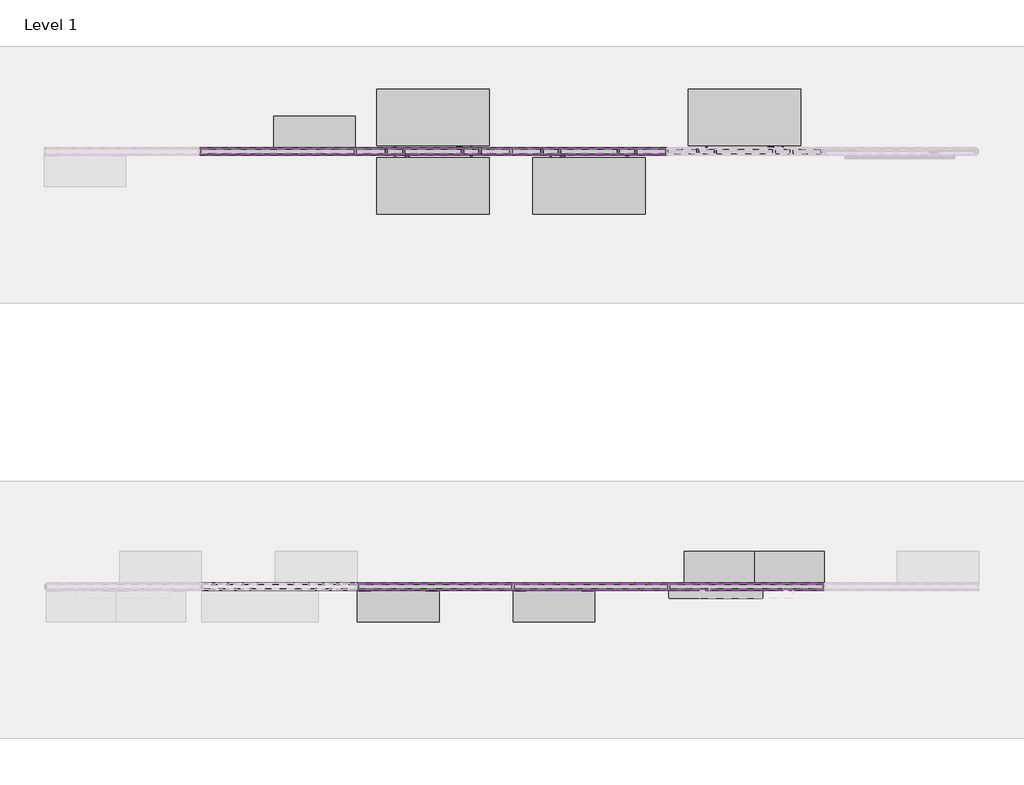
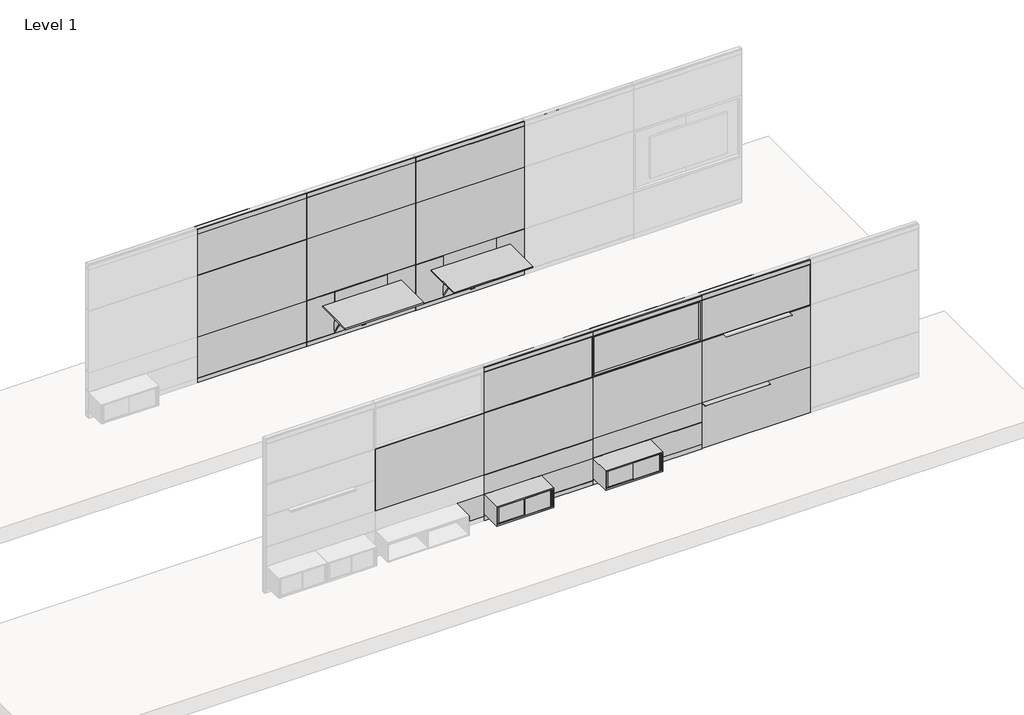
# One storey, part 6 of 13: 102 proxies, 10 furniture elements.
"""IFC4 building model written with IfcOpenShell, lengths in millimetres."""

from ifc_helpers import new_model, si_unit, origin, place, context, project, spatial, transform, mapped, element, save
from components import fascia_teknion_ceiling_and_base_ffb1_57c76872, fascia_teknion_ceiling_and_base_ffb1_68f9ae85, frame_teknion_horizontal_rail_fkk_aab90c89, frame_teknion_landscape_vertical_post_b621eeab, glass_fascia_e9c48712, glass_fascia_e3078b55, level_i_42ece40d, level_i_b1a3b441, level_i_4afae145, level_i_bottom_1aac6edf, level_i_bottom_7d6acad2, level_i_top_09e36e50, level_i_top_83d707e0, level_ii_231fb084, level_ii_554533ae, level_iii_45eca7cc, level_iii_4951afc5, whiteboard_fe8ffc8d, working_wall_monolithic_level_i_3b1bc392, furniture_ecb3b3c7, aluminum_shelf_9e608764, furniture_9e8aaa73, furniture_d19da1b5

model = new_model("IFC4")

# Units and contexts
model_context = context("Model", 3, world=origin())
ifc_project = project(units=[si_unit("LENGTHUNIT", "METRE", prefix="MILLI")], contexts=[model_context])

# Site, building, storey
site = spatial("IfcSite", under=ifc_project)
building = spatial("IfcBuilding", under=site)
storey = spatial("IfcBuildingStorey", under=building, Name="Level 1", Elevation=0.0)

# Proxies
placement = place(None, origin())
fascia_teknion_ceiling_and_base_ffb1_shape = fascia_teknion_ceiling_and_base_ffb1_57c76872(model_context)
element("IfcBuildingElementProxy", 1, Name="Fascia-Teknion-Ceiling_and_Base : FFB1", ObjectType="Fascia-Teknion-Ceiling_and_Base : FFB1", at=placement, inside=storey, context=model_context, shape_type="MappedRepresentation", body=[
    mapped(fascia_teknion_ceiling_and_base_ffb1_shape, transform((-36700.5069272, 16151.7189796, 15.875), x_axis=(1.0, 0.0, 0.0), y_axis=(0.0, 1.0, 0.0), z_axis=(0.0, 0.0, 1.0))),
])
element("IfcBuildingElementProxy", 2, Name="Fascia-Teknion-Ceiling_and_Base : FFB1", ObjectType="Fascia-Teknion-Ceiling_and_Base : FFB1", at=placement, inside=storey, context=model_context, shape_type="MappedRepresentation", body=[
    mapped(fascia_teknion_ceiling_and_base_ffb1_shape, transform((-34668.5069272, 16151.7189796, 15.875), x_axis=(1.0, 0.0, 0.0), y_axis=(0.0, 1.0, 0.0), z_axis=(0.0, 0.0, 1.0))),
])
element("IfcBuildingElementProxy", 3, Name="Fascia-Teknion-Ceiling_and_Base : FFB1", ObjectType="Fascia-Teknion-Ceiling_and_Base : FFB1", at=placement, inside=storey, context=model_context, shape_type="MappedRepresentation", body=[
    mapped(fascia_teknion_ceiling_and_base_ffb1_shape, transform((-32636.5069272, 16151.7189796, 15.875), x_axis=(1.0, 0.0, 0.0), y_axis=(0.0, 1.0, 0.0), z_axis=(0.0, 0.0, 1.0))),
])
element("IfcBuildingElementProxy", 4, Name="Fascia-Teknion-Ceiling_and_Base : FFB1", ObjectType="Fascia-Teknion-Ceiling_and_Base : FFB1", at=placement, inside=storey, context=model_context, shape_type="MappedRepresentation", body=[
    mapped(fascia_teknion_ceiling_and_base_ffb1_shape, transform((-38757.9069272, 21833.4449796, 15.875), x_axis=(1.0, 0.0, 0.0), y_axis=(0.0, 1.0, 0.0), z_axis=(0.0, 0.0, 1.0))),
])
element("IfcBuildingElementProxy", 5, Name="Fascia-Teknion-Ceiling_and_Base : FFB1", ObjectType="Fascia-Teknion-Ceiling_and_Base : FFB1", at=placement, inside=storey, context=model_context, shape_type="MappedRepresentation", body=[
    mapped(fascia_teknion_ceiling_and_base_ffb1_shape, transform((-34693.9069272, 21833.4449796, 15.875), x_axis=(1.0, 0.0, 0.0), y_axis=(0.0, 1.0, 0.0), z_axis=(0.0, 0.0, 1.0))),
])
fascia_teknion_ceiling_and_base_ffb1_2_shape = fascia_teknion_ceiling_and_base_ffb1_68f9ae85(model_context)
element("IfcBuildingElementProxy", 6, Name="Fascia-Teknion-Ceiling_and_Base : FFB1", ObjectType="Fascia-Teknion-Ceiling_and_Base : FFB1", at=placement, inside=storey, context=model_context, shape_type="MappedRepresentation", body=[
    mapped(fascia_teknion_ceiling_and_base_ffb1_2_shape, transform((-36700.5069272, 16089.7429796, 15.875), x_axis=(1.0, 0.0, 0.0), y_axis=(0.0, 1.0, 0.0), z_axis=(0.0, 0.0, 1.0))),
])
element("IfcBuildingElementProxy", 7, Name="Fascia-Teknion-Ceiling_and_Base : FFB1", ObjectType="Fascia-Teknion-Ceiling_and_Base : FFB1", at=placement, inside=storey, context=model_context, shape_type="MappedRepresentation", body=[
    mapped(fascia_teknion_ceiling_and_base_ffb1_2_shape, transform((-34668.5069272, 16089.7429796, 15.875), x_axis=(1.0, 0.0, 0.0), y_axis=(0.0, 1.0, 0.0), z_axis=(0.0, 0.0, 1.0))),
])
element("IfcBuildingElementProxy", 8, Name="Fascia-Teknion-Ceiling_and_Base : FFB1", ObjectType="Fascia-Teknion-Ceiling_and_Base : FFB1", at=placement, inside=storey, context=model_context, shape_type="MappedRepresentation", body=[
    mapped(fascia_teknion_ceiling_and_base_ffb1_2_shape, transform((-36725.9069272, 21771.4689796, 15.875), x_axis=(1.0, 0.0, 0.0), y_axis=(0.0, 1.0, 0.0), z_axis=(0.0, 0.0, 1.0))),
])
element("IfcBuildingElementProxy", 9, Name="Fascia-Teknion-Ceiling_and_Base : FFB1", ObjectType="Fascia-Teknion-Ceiling_and_Base : FFB1", at=placement, inside=storey, context=model_context, shape_type="MappedRepresentation", body=[
    mapped(fascia_teknion_ceiling_and_base_ffb1_2_shape, transform((-34693.9069272, 21771.4689796, 15.875), x_axis=(1.0, 0.0, 0.0), y_axis=(0.0, 1.0, 0.0), z_axis=(0.0, 0.0, 1.0))),
])
element("IfcBuildingElementProxy", 10, Name="Fascia-Teknion-Ceiling_and_Base : FFB1", ObjectType="Fascia-Teknion-Ceiling_and_Base : FFB1", at=placement, inside=storey, context=model_context, shape_type="MappedRepresentation", body=[
    mapped(fascia_teknion_ceiling_and_base_ffb1_2_shape, transform((-38757.9069272, 21771.4689796, 15.875), x_axis=(1.0, 0.0, 0.0), y_axis=(0.0, 1.0, 0.0), z_axis=(0.0, 0.0, 1.0))),
])
element("IfcBuildingElementProxy", 11, Name="Fascia-Teknion-Ceiling_and_Base : FFB1", ObjectType="Fascia-Teknion-Ceiling_and_Base : FFB1", at=placement, inside=storey, context=model_context, shape_type="MappedRepresentation", body=[
    mapped(fascia_teknion_ceiling_and_base_ffb1_2_shape, transform((-36725.9069272, 21833.4449796, 15.875), x_axis=(-1.0, 0.0, 0.0), y_axis=(0.0, -1.0, 0.0), z_axis=(0.0, 0.0, 1.0))),
])
element("IfcBuildingElementProxy", 12, Name="Fascia-Teknion-Ceiling_and_Base : FFC", ObjectType="Fascia-Teknion-Ceiling_and_Base : FFC", at=placement, inside=storey, context=model_context, shape_type="MappedRepresentation", body=[
    mapped(fascia_teknion_ceiling_and_base_ffb1_shape, transform((-38757.9069272, 21833.4449796, 2950.845), x_axis=(1.0, 0.0, 0.0), y_axis=(0.0, 1.0, 0.0), z_axis=(0.0, 0.0, 1.0))),
])
element("IfcBuildingElementProxy", 13, Name="Fascia-Teknion-Ceiling_and_Base : FFC", ObjectType="Fascia-Teknion-Ceiling_and_Base : FFC", at=placement, inside=storey, context=model_context, shape_type="MappedRepresentation", body=[
    mapped(fascia_teknion_ceiling_and_base_ffb1_shape, transform((-36725.9069272, 21833.4449796, 2950.845), x_axis=(1.0, 0.0, 0.0), y_axis=(0.0, 1.0, 0.0), z_axis=(0.0, 0.0, 1.0))),
])
element("IfcBuildingElementProxy", 14, Name="Fascia-Teknion-Ceiling_and_Base : FFC", ObjectType="Fascia-Teknion-Ceiling_and_Base : FFC", at=placement, inside=storey, context=model_context, shape_type="MappedRepresentation", body=[
    mapped(fascia_teknion_ceiling_and_base_ffb1_shape, transform((-34693.9069272, 21833.4449796, 2950.845), x_axis=(1.0, 0.0, 0.0), y_axis=(0.0, 1.0, 0.0), z_axis=(0.0, 0.0, 1.0))),
])
element("IfcBuildingElementProxy", 15, Name="Fascia-Teknion-Ceiling_and_Base : FFC", ObjectType="Fascia-Teknion-Ceiling_and_Base : FFC", at=placement, inside=storey, context=model_context, shape_type="MappedRepresentation", body=[
    mapped(fascia_teknion_ceiling_and_base_ffb1_shape, transform((-36700.5069272, 16151.7189796, 2950.845), x_axis=(1.0, 0.0, 0.0), y_axis=(0.0, 1.0, 0.0), z_axis=(0.0, 0.0, 1.0))),
])
element("IfcBuildingElementProxy", 16, Name="Fascia-Teknion-Ceiling_and_Base : FFC", ObjectType="Fascia-Teknion-Ceiling_and_Base : FFC", at=placement, inside=storey, context=model_context, shape_type="MappedRepresentation", body=[
    mapped(fascia_teknion_ceiling_and_base_ffb1_shape, transform((-34668.5069272, 16151.7189796, 2950.845), x_axis=(1.0, 0.0, 0.0), y_axis=(0.0, 1.0, 0.0), z_axis=(0.0, 0.0, 1.0))),
])
element("IfcBuildingElementProxy", 17, Name="Fascia-Teknion-Ceiling_and_Base : FFC", ObjectType="Fascia-Teknion-Ceiling_and_Base : FFC", at=placement, inside=storey, context=model_context, shape_type="MappedRepresentation", body=[
    mapped(fascia_teknion_ceiling_and_base_ffb1_shape, transform((-32636.5069272, 16151.7189796, 2950.845), x_axis=(1.0, 0.0, 0.0), y_axis=(0.0, 1.0, 0.0), z_axis=(0.0, 0.0, 1.0))),
])
element("IfcBuildingElementProxy", 18, Name="Fascia-Teknion-Ceiling_and_Base : FFC", ObjectType="Fascia-Teknion-Ceiling_and_Base : FFC", at=placement, inside=storey, context=model_context, shape_type="MappedRepresentation", body=[
    mapped(fascia_teknion_ceiling_and_base_ffb1_2_shape, transform((-38757.9069272, 21771.4689796, 2950.845), x_axis=(1.0, 0.0, 0.0), y_axis=(0.0, 1.0, 0.0), z_axis=(0.0, 0.0, 1.0))),
])
element("IfcBuildingElementProxy", 19, Name="Fascia-Teknion-Ceiling_and_Base : FFC", ObjectType="Fascia-Teknion-Ceiling_and_Base : FFC", at=placement, inside=storey, context=model_context, shape_type="MappedRepresentation", body=[
    mapped(fascia_teknion_ceiling_and_base_ffb1_2_shape, transform((-36725.9069272, 21771.4689796, 2950.845), x_axis=(1.0, 0.0, 0.0), y_axis=(0.0, 1.0, 0.0), z_axis=(0.0, 0.0, 1.0))),
])
element("IfcBuildingElementProxy", 20, Name="Fascia-Teknion-Ceiling_and_Base : FFC", ObjectType="Fascia-Teknion-Ceiling_and_Base : FFC", at=placement, inside=storey, context=model_context, shape_type="MappedRepresentation", body=[
    mapped(fascia_teknion_ceiling_and_base_ffb1_2_shape, transform((-34693.9069272, 21771.4689796, 2950.845), x_axis=(1.0, 0.0, 0.0), y_axis=(0.0, 1.0, 0.0), z_axis=(0.0, 0.0, 1.0))),
])
element("IfcBuildingElementProxy", 21, Name="Fascia-Teknion-Ceiling_and_Base : FFC", ObjectType="Fascia-Teknion-Ceiling_and_Base : FFC", at=placement, inside=storey, context=model_context, shape_type="MappedRepresentation", body=[
    mapped(fascia_teknion_ceiling_and_base_ffb1_2_shape, transform((-36700.5069272, 16089.7429796, 2950.845), x_axis=(1.0, 0.0, 0.0), y_axis=(0.0, 1.0, 0.0), z_axis=(0.0, 0.0, 1.0))),
])
element("IfcBuildingElementProxy", 22, Name="Fascia-Teknion-Ceiling_and_Base : FFC", ObjectType="Fascia-Teknion-Ceiling_and_Base : FFC", at=placement, inside=storey, context=model_context, shape_type="MappedRepresentation", body=[
    mapped(fascia_teknion_ceiling_and_base_ffb1_2_shape, transform((-34668.5069272, 16089.7429796, 2950.845), x_axis=(1.0, 0.0, 0.0), y_axis=(0.0, 1.0, 0.0), z_axis=(0.0, 0.0, 1.0))),
])
element("IfcBuildingElementProxy", 23, Name="Fascia-Teknion-Ceiling_and_Base : FFC", ObjectType="Fascia-Teknion-Ceiling_and_Base : FFC", at=placement, inside=storey, context=model_context, shape_type="MappedRepresentation", body=[
    mapped(fascia_teknion_ceiling_and_base_ffb1_2_shape, transform((-32636.5069272, 16089.7429796, 2950.845), x_axis=(1.0, 0.0, 0.0), y_axis=(0.0, 1.0, 0.0), z_axis=(0.0, 0.0, 1.0))),
])
frame_teknion_horizontal_rail_fkk_shape = frame_teknion_horizontal_rail_fkk_aab90c89(model_context)
element("IfcBuildingElementProxy", 24, Name="Frame-Teknion-Horizontal_Rail : FKK", ObjectType="Frame-Teknion-Horizontal_Rail : FKK", at=placement, inside=storey, context=model_context, shape_type="MappedRepresentation", body=[
    mapped(frame_teknion_horizontal_rail_fkk_shape, transform((-38757.9069272, 21802.4569796, 100.4514438), x_axis=(1.0, 0.0, 0.0), y_axis=(0.0, 1.0, 0.0), z_axis=(0.0, 0.0, 1.0))),
])
element("IfcBuildingElementProxy", 25, Name="Frame-Teknion-Horizontal_Rail : FKK", ObjectType="Frame-Teknion-Horizontal_Rail : FKK", at=placement, inside=storey, context=model_context, shape_type="MappedRepresentation", body=[
    mapped(frame_teknion_horizontal_rail_fkk_shape, transform((-38757.9069272, 21802.4569796, 2947.5374437), x_axis=(1.0, 0.0, 0.0), y_axis=(0.0, 1.0, 0.0), z_axis=(0.0, 0.0, 1.0))),
])
element("IfcBuildingElementProxy", 26, Name="Frame-Teknion-Horizontal_Rail : FKK", ObjectType="Frame-Teknion-Horizontal_Rail : FKK", at=placement, inside=storey, context=model_context, shape_type="MappedRepresentation", body=[
    mapped(frame_teknion_horizontal_rail_fkk_shape, transform((-36725.9069272, 21802.4569796, 100.4514438), x_axis=(1.0, 0.0, 0.0), y_axis=(0.0, 1.0, 0.0), z_axis=(0.0, 0.0, 1.0))),
])
element("IfcBuildingElementProxy", 27, Name="Frame-Teknion-Horizontal_Rail : FKK", ObjectType="Frame-Teknion-Horizontal_Rail : FKK", at=placement, inside=storey, context=model_context, shape_type="MappedRepresentation", body=[
    mapped(frame_teknion_horizontal_rail_fkk_shape, transform((-36725.9069272, 21802.4569796, 2947.5374437), x_axis=(1.0, 0.0, 0.0), y_axis=(0.0, 1.0, 0.0), z_axis=(0.0, 0.0, 1.0))),
])
element("IfcBuildingElementProxy", 28, Name="Frame-Teknion-Horizontal_Rail : FKK", ObjectType="Frame-Teknion-Horizontal_Rail : FKK", at=placement, inside=storey, context=model_context, shape_type="MappedRepresentation", body=[
    mapped(frame_teknion_horizontal_rail_fkk_shape, transform((-34693.9069272, 21802.4569796, 100.4514438), x_axis=(1.0, 0.0, 0.0), y_axis=(0.0, 1.0, 0.0), z_axis=(0.0, 0.0, 1.0))),
])
element("IfcBuildingElementProxy", 29, Name="Frame-Teknion-Horizontal_Rail : FKK", ObjectType="Frame-Teknion-Horizontal_Rail : FKK", at=placement, inside=storey, context=model_context, shape_type="MappedRepresentation", body=[
    mapped(frame_teknion_horizontal_rail_fkk_shape, transform((-34693.9069272, 21802.4569796, 2947.5374437), x_axis=(1.0, 0.0, 0.0), y_axis=(0.0, 1.0, 0.0), z_axis=(0.0, 0.0, 1.0))),
])
element("IfcBuildingElementProxy", 30, Name="Frame-Teknion-Horizontal_Rail : FKK", ObjectType="Frame-Teknion-Horizontal_Rail : FKK", at=placement, inside=storey, context=model_context, shape_type="MappedRepresentation", body=[
    mapped(frame_teknion_horizontal_rail_fkk_shape, transform((-36700.5069272, 16120.7309796, 100.4514438), x_axis=(1.0, 0.0, 0.0), y_axis=(0.0, 1.0, 0.0), z_axis=(0.0, 0.0, 1.0))),
])
element("IfcBuildingElementProxy", 31, Name="Frame-Teknion-Horizontal_Rail : FKK", ObjectType="Frame-Teknion-Horizontal_Rail : FKK", at=placement, inside=storey, context=model_context, shape_type="MappedRepresentation", body=[
    mapped(frame_teknion_horizontal_rail_fkk_shape, transform((-36700.5069272, 16120.7309796, 2947.5374437), x_axis=(1.0, 0.0, 0.0), y_axis=(0.0, 1.0, 0.0), z_axis=(0.0, 0.0, 1.0))),
])
element("IfcBuildingElementProxy", 32, Name="Frame-Teknion-Horizontal_Rail : FKK", ObjectType="Frame-Teknion-Horizontal_Rail : FKK", at=placement, inside=storey, context=model_context, shape_type="MappedRepresentation", body=[
    mapped(frame_teknion_horizontal_rail_fkk_shape, transform((-34668.5069272, 16120.7309796, 100.4514438), x_axis=(1.0, 0.0, 0.0), y_axis=(0.0, 1.0, 0.0), z_axis=(0.0, 0.0, 1.0))),
])
element("IfcBuildingElementProxy", 33, Name="Frame-Teknion-Horizontal_Rail : FKK", ObjectType="Frame-Teknion-Horizontal_Rail : FKK", at=placement, inside=storey, context=model_context, shape_type="MappedRepresentation", body=[
    mapped(frame_teknion_horizontal_rail_fkk_shape, transform((-34668.5069272, 16120.7309796, 2947.5374437), x_axis=(1.0, 0.0, 0.0), y_axis=(0.0, 1.0, 0.0), z_axis=(0.0, 0.0, 1.0))),
])
element("IfcBuildingElementProxy", 34, Name="Frame-Teknion-Horizontal_Rail : FKK", ObjectType="Frame-Teknion-Horizontal_Rail : FKK", at=placement, inside=storey, context=model_context, shape_type="MappedRepresentation", body=[
    mapped(frame_teknion_horizontal_rail_fkk_shape, transform((-32636.5069272, 16120.7309796, 100.4514438), x_axis=(1.0, 0.0, 0.0), y_axis=(0.0, 1.0, 0.0), z_axis=(0.0, 0.0, 1.0))),
])
element("IfcBuildingElementProxy", 35, Name="Frame-Teknion-Horizontal_Rail : FKK", ObjectType="Frame-Teknion-Horizontal_Rail : FKK", at=placement, inside=storey, context=model_context, shape_type="MappedRepresentation", body=[
    mapped(frame_teknion_horizontal_rail_fkk_shape, transform((-32636.5069272, 16120.7309796, 2947.5374437), x_axis=(1.0, 0.0, 0.0), y_axis=(0.0, 1.0, 0.0), z_axis=(0.0, 0.0, 1.0))),
])
element("IfcBuildingElementProxy", 36, Name="Frame-Teknion-Landscape_Horizontal_Rail : FLKH", ObjectType="Frame-Teknion-Landscape_Horizontal_Rail : FLKH", at=placement, inside=storey, context=model_context, shape_type="MappedRepresentation", body=[
    mapped(frame_teknion_horizontal_rail_fkk_shape, transform((-38757.9069272, 21802.4569796, 917.575), x_axis=(1.0, 0.0, 0.0), y_axis=(0.0, 1.0, 0.0), z_axis=(0.0, 0.0, 1.0))),
])
element("IfcBuildingElementProxy", 37, Name="Frame-Teknion-Landscape_Horizontal_Rail : FLKH", ObjectType="Frame-Teknion-Landscape_Horizontal_Rail : FLKH", at=placement, inside=storey, context=model_context, shape_type="MappedRepresentation", body=[
    mapped(frame_teknion_horizontal_rail_fkk_shape, transform((-38757.9069272, 21802.4569796, 2136.775), x_axis=(1.0, 0.0, 0.0), y_axis=(0.0, 1.0, 0.0), z_axis=(0.0, 0.0, 1.0))),
])
element("IfcBuildingElementProxy", 38, Name="Frame-Teknion-Landscape_Horizontal_Rail : FLKH", ObjectType="Frame-Teknion-Landscape_Horizontal_Rail : FLKH", at=placement, inside=storey, context=model_context, shape_type="MappedRepresentation", body=[
    mapped(frame_teknion_horizontal_rail_fkk_shape, transform((-36725.9069272, 21802.4569796, 917.575), x_axis=(1.0, 0.0, 0.0), y_axis=(0.0, 1.0, 0.0), z_axis=(0.0, 0.0, 1.0))),
])
element("IfcBuildingElementProxy", 39, Name="Frame-Teknion-Landscape_Horizontal_Rail : FLKH", ObjectType="Frame-Teknion-Landscape_Horizontal_Rail : FLKH", at=placement, inside=storey, context=model_context, shape_type="MappedRepresentation", body=[
    mapped(frame_teknion_horizontal_rail_fkk_shape, transform((-36725.9069272, 21802.4569796, 2136.775), x_axis=(1.0, 0.0, 0.0), y_axis=(0.0, 1.0, 0.0), z_axis=(0.0, 0.0, 1.0))),
])
element("IfcBuildingElementProxy", 40, Name="Frame-Teknion-Landscape_Horizontal_Rail : FLKH", ObjectType="Frame-Teknion-Landscape_Horizontal_Rail : FLKH", at=placement, inside=storey, context=model_context, shape_type="MappedRepresentation", body=[
    mapped(frame_teknion_horizontal_rail_fkk_shape, transform((-34693.9069272, 21802.4569796, 917.575), x_axis=(1.0, 0.0, 0.0), y_axis=(0.0, 1.0, 0.0), z_axis=(0.0, 0.0, 1.0))),
])
element("IfcBuildingElementProxy", 41, Name="Frame-Teknion-Landscape_Horizontal_Rail : FLKH", ObjectType="Frame-Teknion-Landscape_Horizontal_Rail : FLKH", at=placement, inside=storey, context=model_context, shape_type="MappedRepresentation", body=[
    mapped(frame_teknion_horizontal_rail_fkk_shape, transform((-34693.9069272, 21802.4569796, 2136.775), x_axis=(1.0, 0.0, 0.0), y_axis=(0.0, 1.0, 0.0), z_axis=(0.0, 0.0, 1.0))),
])
element("IfcBuildingElementProxy", 42, Name="Frame-Teknion-Landscape_Horizontal_Rail : FLKH", ObjectType="Frame-Teknion-Landscape_Horizontal_Rail : FLKH", at=placement, inside=storey, context=model_context, shape_type="MappedRepresentation", body=[
    mapped(frame_teknion_horizontal_rail_fkk_shape, transform((-32661.9069272, 21802.4569796, 917.575), x_axis=(1.0, 0.0, 0.0), y_axis=(0.0, 1.0, 0.0), z_axis=(0.0, 0.0, 1.0))),
])
element("IfcBuildingElementProxy", 43, Name="Frame-Teknion-Landscape_Horizontal_Rail : FLKH", ObjectType="Frame-Teknion-Landscape_Horizontal_Rail : FLKH", at=placement, inside=storey, context=model_context, shape_type="MappedRepresentation", body=[
    mapped(frame_teknion_horizontal_rail_fkk_shape, transform((-38757.9069272, 21802.4569796, 536.575), x_axis=(1.0, 0.0, 0.0), y_axis=(0.0, 1.0, 0.0), z_axis=(0.0, 0.0, 1.0))),
])
element("IfcBuildingElementProxy", 44, Name="Frame-Teknion-Landscape_Horizontal_Rail : FLKH", ObjectType="Frame-Teknion-Landscape_Horizontal_Rail : FLKH", at=placement, inside=storey, context=model_context, shape_type="MappedRepresentation", body=[
    mapped(frame_teknion_horizontal_rail_fkk_shape, transform((-36700.5069272, 16120.7309796, 917.575), x_axis=(1.0, 0.0, 0.0), y_axis=(0.0, 1.0, 0.0), z_axis=(0.0, 0.0, 1.0))),
])
element("IfcBuildingElementProxy", 45, Name="Frame-Teknion-Landscape_Horizontal_Rail : FLKH", ObjectType="Frame-Teknion-Landscape_Horizontal_Rail : FLKH", at=placement, inside=storey, context=model_context, shape_type="MappedRepresentation", body=[
    mapped(frame_teknion_horizontal_rail_fkk_shape, transform((-36700.5069272, 16120.7309796, 2136.775), x_axis=(1.0, 0.0, 0.0), y_axis=(0.0, 1.0, 0.0), z_axis=(0.0, 0.0, 1.0))),
])
element("IfcBuildingElementProxy", 46, Name="Frame-Teknion-Landscape_Horizontal_Rail : FLKH", ObjectType="Frame-Teknion-Landscape_Horizontal_Rail : FLKH", at=placement, inside=storey, context=model_context, shape_type="MappedRepresentation", body=[
    mapped(frame_teknion_horizontal_rail_fkk_shape, transform((-34668.5069272, 16120.7309796, 917.575), x_axis=(1.0, 0.0, 0.0), y_axis=(0.0, 1.0, 0.0), z_axis=(0.0, 0.0, 1.0))),
])
element("IfcBuildingElementProxy", 47, Name="Frame-Teknion-Landscape_Horizontal_Rail : FLKH", ObjectType="Frame-Teknion-Landscape_Horizontal_Rail : FLKH", at=placement, inside=storey, context=model_context, shape_type="MappedRepresentation", body=[
    mapped(frame_teknion_horizontal_rail_fkk_shape, transform((-34668.5069272, 16120.7309796, 2136.775), x_axis=(1.0, 0.0, 0.0), y_axis=(0.0, 1.0, 0.0), z_axis=(0.0, 0.0, 1.0))),
])
element("IfcBuildingElementProxy", 48, Name="Frame-Teknion-Landscape_Horizontal_Rail : FLKH", ObjectType="Frame-Teknion-Landscape_Horizontal_Rail : FLKH", at=placement, inside=storey, context=model_context, shape_type="MappedRepresentation", body=[
    mapped(frame_teknion_horizontal_rail_fkk_shape, transform((-32636.5069272, 16120.7309796, 917.575), x_axis=(1.0, 0.0, 0.0), y_axis=(0.0, 1.0, 0.0), z_axis=(0.0, 0.0, 1.0))),
])
element("IfcBuildingElementProxy", 49, Name="Frame-Teknion-Landscape_Horizontal_Rail : FLKH", ObjectType="Frame-Teknion-Landscape_Horizontal_Rail : FLKH", at=placement, inside=storey, context=model_context, shape_type="MappedRepresentation", body=[
    mapped(frame_teknion_horizontal_rail_fkk_shape, transform((-32636.5069272, 16120.7309796, 2136.775), x_axis=(1.0, 0.0, 0.0), y_axis=(0.0, 1.0, 0.0), z_axis=(0.0, 0.0, 1.0))),
])
element("IfcBuildingElementProxy", 50, Name="Frame-Teknion-Landscape_Horizontal_Rail : FLKH", ObjectType="Frame-Teknion-Landscape_Horizontal_Rail : FLKH", at=placement, inside=storey, context=model_context, shape_type="MappedRepresentation", body=[
    mapped(frame_teknion_horizontal_rail_fkk_shape, transform((-36700.5069272, 16120.7309796, 536.575), x_axis=(1.0, 0.0, 0.0), y_axis=(0.0, 1.0, 0.0), z_axis=(0.0, 0.0, 1.0))),
])
element("IfcBuildingElementProxy", 51, Name="Frame-Teknion-Landscape_Horizontal_Rail : FLKH", ObjectType="Frame-Teknion-Landscape_Horizontal_Rail : FLKH", at=placement, inside=storey, context=model_context, shape_type="MappedRepresentation", body=[
    mapped(frame_teknion_horizontal_rail_fkk_shape, transform((-34668.5069272, 16120.7309796, 536.575), x_axis=(1.0, 0.0, 0.0), y_axis=(0.0, 1.0, 0.0), z_axis=(0.0, 0.0, 1.0))),
])
element("IfcBuildingElementProxy", 52, Name="Frame-Teknion-Landscape_Horizontal_Rail : FLKH", ObjectType="Frame-Teknion-Landscape_Horizontal_Rail : FLKH", at=placement, inside=storey, context=model_context, shape_type="MappedRepresentation", body=[
    mapped(frame_teknion_horizontal_rail_fkk_shape, transform((-32636.5069272, 16120.7309796, 536.575), x_axis=(1.0, 0.0, 0.0), y_axis=(0.0, 1.0, 0.0), z_axis=(0.0, 0.0, 1.0))),
])
frame_teknion_landscape_vertical_post_shape = frame_teknion_landscape_vertical_post_b621eeab(model_context)
element("IfcBuildingElementProxy", 53, Name="Frame-Teknion-Landscape_Vertical_Post : FLKV", ObjectType="Frame-Teknion-Landscape_Vertical_Post : FLKV", at=placement, inside=storey, context=model_context, shape_type="MappedRepresentation", body=[
    mapped(frame_teknion_landscape_vertical_post_shape, transform((-37337.0817272, 21802.4569796, 15.875), x_axis=(-1.0000000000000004, 0.0, 0.0), y_axis=(0.0, -1.0000000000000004, 0.0), z_axis=(0.0, 0.0, 1.0))),
])
element("IfcBuildingElementProxy", 54, Name="Frame-Teknion-Landscape_Vertical_Post : FLKV", ObjectType="Frame-Teknion-Landscape_Vertical_Post : FLKV", at=placement, inside=storey, context=model_context, shape_type="MappedRepresentation", body=[
    mapped(frame_teknion_landscape_vertical_post_shape, transform((-37108.4817272, 21802.4569796, 15.875), x_axis=(-1.0000000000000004, 0.0, 0.0), y_axis=(0.0, -1.0000000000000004, 0.0), z_axis=(0.0, 0.0, 1.0))),
])
element("IfcBuildingElementProxy", 55, Name="Frame-Teknion-Landscape_Vertical_Post : FLKV", ObjectType="Frame-Teknion-Landscape_Vertical_Post : FLKV", at=placement, inside=storey, context=model_context, shape_type="MappedRepresentation", body=[
    mapped(frame_teknion_landscape_vertical_post_shape, transform((-36343.3321272, 21802.4569796, 15.875), x_axis=(-1.0000000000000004, 0.0, 0.0), y_axis=(0.0, -1.0000000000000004, 0.0), z_axis=(0.0, 0.0, 1.0))),
])
element("IfcBuildingElementProxy", 56, Name="Frame-Teknion-Landscape_Vertical_Post : FLKV", ObjectType="Frame-Teknion-Landscape_Vertical_Post : FLKV", at=placement, inside=storey, context=model_context, shape_type="MappedRepresentation", body=[
    mapped(frame_teknion_landscape_vertical_post_shape, transform((-36114.7321272, 21802.4569796, 15.875), x_axis=(-1.0000000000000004, 0.0, 0.0), y_axis=(0.0, -1.0000000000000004, 0.0), z_axis=(0.0, 0.0, 1.0))),
])
element("IfcBuildingElementProxy", 57, Name="Frame-Teknion-Landscape_Vertical_Post : FLKV", ObjectType="Frame-Teknion-Landscape_Vertical_Post : FLKV", at=placement, inside=storey, context=model_context, shape_type="MappedRepresentation", body=[
    mapped(frame_teknion_landscape_vertical_post_shape, transform((-35305.0817272, 21802.4569796, 15.875), x_axis=(-1.0000000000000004, 0.0, 0.0), y_axis=(0.0, -1.0000000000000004, 0.0), z_axis=(0.0, 0.0, 1.0))),
])
element("IfcBuildingElementProxy", 58, Name="Frame-Teknion-Landscape_Vertical_Post : FLKV", ObjectType="Frame-Teknion-Landscape_Vertical_Post : FLKV", at=placement, inside=storey, context=model_context, shape_type="MappedRepresentation", body=[
    mapped(frame_teknion_landscape_vertical_post_shape, transform((-35076.4817272, 21802.4569796, 15.875), x_axis=(-1.0000000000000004, 0.0, 0.0), y_axis=(0.0, -1.0000000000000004, 0.0), z_axis=(0.0, 0.0, 1.0))),
])
element("IfcBuildingElementProxy", 59, Name="Frame-Teknion-Landscape_Vertical_Post : FLKV", ObjectType="Frame-Teknion-Landscape_Vertical_Post : FLKV", at=placement, inside=storey, context=model_context, shape_type="MappedRepresentation", body=[
    mapped(frame_teknion_landscape_vertical_post_shape, transform((-34311.3321272, 21802.4569796, 15.875), x_axis=(-1.0000000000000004, 0.0, 0.0), y_axis=(0.0, -1.0000000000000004, 0.0), z_axis=(0.0, 0.0, 1.0))),
])
element("IfcBuildingElementProxy", 60, Name="Frame-Teknion-Landscape_Vertical_Post : FLKV", ObjectType="Frame-Teknion-Landscape_Vertical_Post : FLKV", at=placement, inside=storey, context=model_context, shape_type="MappedRepresentation", body=[
    mapped(frame_teknion_landscape_vertical_post_shape, transform((-34082.7321272, 21802.4569796, 15.875), x_axis=(-1.0000000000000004, 0.0, 0.0), y_axis=(0.0, -1.0000000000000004, 0.0), z_axis=(0.0, 0.0, 1.0))),
])
element("IfcBuildingElementProxy", 61, Name="Frame-Teknion-Landscape_Vertical_Post : FLKV", ObjectType="Frame-Teknion-Landscape_Vertical_Post : FLKV", at=placement, inside=storey, context=model_context, shape_type="MappedRepresentation", body=[
    mapped(frame_teknion_landscape_vertical_post_shape, transform((-33044.4817272, 21802.4569796, 15.875), x_axis=(1.0000000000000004, 0.0, 0.0), y_axis=(0.0, 1.0000000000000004, 0.0), z_axis=(0.0, 0.0, 1.0))),
])
element("IfcBuildingElementProxy", 62, Name="Frame-Teknion-Landscape_Vertical_Post : FLKV", ObjectType="Frame-Teknion-Landscape_Vertical_Post : FLKV", at=placement, inside=storey, context=model_context, shape_type="MappedRepresentation", body=[
    mapped(frame_teknion_landscape_vertical_post_shape, transform((-33273.0817272, 21802.4569796, 15.875), x_axis=(1.0000000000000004, 0.0, 0.0), y_axis=(0.0, 1.0000000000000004, 0.0), z_axis=(0.0, 0.0, 1.0))),
])
glass_fascia_shape = glass_fascia_e9c48712(model_context)
element("IfcBuildingElementProxy", 63, Name="Panel-Fascia-Teknion-Altos-Glass : Glass Fascia", ObjectType="Panel-Fascia-Teknion-Altos-Glass : Glass Fascia", at=placement, inside=storey, context=model_context, shape_type="MappedRepresentation", body=[
    mapped(glass_fascia_shape, transform((-34668.5069272, 16120.748839, 2136.775), x_axis=(1.0, 0.0, 0.0), y_axis=(0.0, 1.0, 0.0), z_axis=(0.0, 0.0, 1.0))),
])
glass_fascia_2_shape = glass_fascia_e3078b55(model_context)
element("IfcBuildingElementProxy", 64, Name="Panel-Fascia-Teknion-Altos-Glass : Glass Fascia", ObjectType="Panel-Fascia-Teknion-Altos-Glass : Glass Fascia", at=placement, inside=storey, context=model_context, shape_type="MappedRepresentation", body=[
    mapped(glass_fascia_2_shape, transform((-36700.5069272, 16120.748839, 2136.775), x_axis=(1.0, 0.0, 0.0), y_axis=(0.0, 1.0, 0.0), z_axis=(0.0, 0.0, 1.0))),
])
element("IfcBuildingElementProxy", 65, Name="Panel-Fascia-Teknion-Altos-Glass : Glass Fascia", ObjectType="Panel-Fascia-Teknion-Altos-Glass : Glass Fascia", at=placement, inside=storey, context=model_context, shape_type="MappedRepresentation", body=[
    mapped(glass_fascia_2_shape, transform((-32636.5069272, 16120.748839, 2136.775), x_axis=(1.0, 0.0, 0.0), y_axis=(0.0, 1.0, 0.0), z_axis=(0.0, 0.0, 1.0))),
])
level_i_shape = level_i_42ece40d(model_context)
element("IfcBuildingElementProxy", 66, Name="Panel-Fascia-Teknion-Altos-Landscape : Level I", ObjectType="Panel-Fascia-Teknion-Altos-Landscape : Level I", at=placement, inside=storey, context=model_context, shape_type="MappedRepresentation", body=[
    mapped(level_i_shape, transform((-34693.9069272, 21842.9699796, 100.457), x_axis=(1.0, 0.0, 0.0), y_axis=(0.0, 1.0, 0.0), z_axis=(0.0, 0.0, 1.0))),
])
element("IfcBuildingElementProxy", 67, Name="Panel-Fascia-Teknion-Altos-Landscape : Level I", ObjectType="Panel-Fascia-Teknion-Altos-Landscape : Level I", at=placement, inside=storey, context=model_context, shape_type="MappedRepresentation", body=[
    mapped(level_i_shape, transform((-36700.5069272, 16161.2439796, 100.457), x_axis=(1.0, 0.0, 0.0), y_axis=(0.0, 1.0, 0.0), z_axis=(0.0, 0.0, 1.0))),
])
element("IfcBuildingElementProxy", 68, Name="Panel-Fascia-Teknion-Altos-Landscape : Level I", ObjectType="Panel-Fascia-Teknion-Altos-Landscape : Level I", at=placement, inside=storey, context=model_context, shape_type="MappedRepresentation", body=[
    mapped(level_i_shape, transform((-34668.5069272, 16161.2439796, 100.457), x_axis=(1.0, 0.0, 0.0), y_axis=(0.0, 1.0, 0.0), z_axis=(0.0, 0.0, 1.0))),
])
level_i_2_shape = level_i_b1a3b441(model_context)
element("IfcBuildingElementProxy", 69, Name="Panel-Fascia-Teknion-Altos-Landscape : Level I", ObjectType="Panel-Fascia-Teknion-Altos-Landscape : Level I", at=placement, inside=storey, context=model_context, shape_type="MappedRepresentation", body=[
    mapped(level_i_2_shape, transform((-38757.9069272, 21761.9439796, 100.457), x_axis=(1.0, 0.0, 0.0), y_axis=(0.0, 1.0, 0.0), z_axis=(0.0, 0.0, 1.0))),
])
level_i_3_shape = level_i_4afae145(model_context)
element("IfcBuildingElementProxy", 70, Name="Panel-Fascia-Teknion-Altos-Landscape_Desk : Level I", ObjectType="Panel-Fascia-Teknion-Altos-Landscape_Desk : Level I", at=placement, inside=storey, context=model_context, shape_type="MappedRepresentation", body=[
    mapped(level_i_3_shape, transform((-36725.9069272, 21761.9439796, 100.457), x_axis=(1.0, 0.0, 0.0), y_axis=(0.0, 1.0, 0.0), z_axis=(0.0, 0.0, 1.0))),
])
element("IfcBuildingElementProxy", 71, Name="Panel-Fascia-Teknion-Altos-Landscape_Desk : Level I", ObjectType="Panel-Fascia-Teknion-Altos-Landscape_Desk : Level I", at=placement, inside=storey, context=model_context, shape_type="MappedRepresentation", body=[
    mapped(level_i_3_shape, transform((-34693.9069272, 21761.9439796, 100.457), x_axis=(1.0, 0.0, 0.0), y_axis=(0.0, 1.0, 0.0), z_axis=(0.0, 0.0, 1.0))),
])
element("IfcBuildingElementProxy", 72, Name="Panel-Fascia-Teknion-Altos-Landscape_Desk : Level I", ObjectType="Panel-Fascia-Teknion-Altos-Landscape_Desk : Level I", at=placement, inside=storey, context=model_context, shape_type="MappedRepresentation", body=[
    mapped(level_i_3_shape, transform((-36725.9069272, 21842.9699796, 100.457), x_axis=(-1.0, 0.0, 0.0), y_axis=(0.0, -1.0, 0.0), z_axis=(0.0, 0.0, 1.0))),
])
level_i_bottom_shape = level_i_bottom_1aac6edf(model_context)
element("IfcBuildingElementProxy", 73, Name="Panel-Fascia-Teknion-Altos-Landscape : Level I Bottom", ObjectType="Panel-Fascia-Teknion-Altos-Landscape : Level I Bottom", at=placement, inside=storey, context=model_context, shape_type="MappedRepresentation", body=[
    mapped(level_i_bottom_shape, transform((-32636.5069272, 16161.2439796, 100.457), x_axis=(1.0, 0.0, 0.0), y_axis=(0.0, 1.0, 0.0), z_axis=(0.0, 0.0, 1.0))),
])
element("IfcBuildingElementProxy", 74, Name="Panel-Fascia-Teknion-Altos-Landscape : Level I Bottom", ObjectType="Panel-Fascia-Teknion-Altos-Landscape : Level I Bottom", at=placement, inside=storey, context=model_context, shape_type="MappedRepresentation", body=[
    mapped(level_i_bottom_shape, transform((-38757.9069272, 21842.9699796, 100.457), x_axis=(1.0, 0.0, 0.0), y_axis=(0.0, 1.0, 0.0), z_axis=(0.0, 0.0, 1.0))),
])
level_i_bottom_2_shape = level_i_bottom_7d6acad2(model_context)
element("IfcBuildingElementProxy", 75, Name="Panel-Fascia-Teknion-Altos-Landscape : Level I Bottom", ObjectType="Panel-Fascia-Teknion-Altos-Landscape : Level I Bottom", at=placement, inside=storey, context=model_context, shape_type="MappedRepresentation", body=[
    mapped(level_i_bottom_2_shape, transform((-38732.5069272, 16080.2179796, 100.457), x_axis=(1.0, 0.0, 0.0), y_axis=(0.0, 1.0, 0.0), z_axis=(0.0, 0.0, 1.0))),
])
element("IfcBuildingElementProxy", 76, Name="Panel-Fascia-Teknion-Altos-Landscape : Level I Bottom", ObjectType="Panel-Fascia-Teknion-Altos-Landscape : Level I Bottom", at=placement, inside=storey, context=model_context, shape_type="MappedRepresentation", body=[
    mapped(level_i_bottom_2_shape, transform((-36700.5069272, 16080.2179796, 100.457), x_axis=(1.0, 0.0, 0.0), y_axis=(0.0, 1.0, 0.0), z_axis=(0.0, 0.0, 1.0))),
])
element("IfcBuildingElementProxy", 77, Name="Panel-Fascia-Teknion-Altos-Landscape : Level I Bottom", ObjectType="Panel-Fascia-Teknion-Altos-Landscape : Level I Bottom", at=placement, inside=storey, context=model_context, shape_type="MappedRepresentation", body=[
    mapped(level_i_bottom_2_shape, transform((-34668.5069272, 16080.2179796, 100.457), x_axis=(1.0, 0.0, 0.0), y_axis=(0.0, 1.0, 0.0), z_axis=(0.0, 0.0, 1.0))),
])
level_i_top_shape = level_i_top_09e36e50(model_context)
element("IfcBuildingElementProxy", 78, Name="Panel-Fascia-Teknion-Altos-Landscape : Level I Top", ObjectType="Panel-Fascia-Teknion-Altos-Landscape : Level I Top", at=placement, inside=storey, context=model_context, shape_type="MappedRepresentation", body=[
    mapped(level_i_top_shape, transform((-32636.5069272, 16161.2439796, 536.575), x_axis=(1.0, 0.0, 0.0), y_axis=(0.0, 1.0, 0.0), z_axis=(0.0, 0.0, 1.0))),
])
element("IfcBuildingElementProxy", 79, Name="Panel-Fascia-Teknion-Altos-Landscape : Level I Top", ObjectType="Panel-Fascia-Teknion-Altos-Landscape : Level I Top", at=placement, inside=storey, context=model_context, shape_type="MappedRepresentation", body=[
    mapped(level_i_top_shape, transform((-38757.9069272, 21842.9699796, 536.575), x_axis=(1.0, 0.0, 0.0), y_axis=(0.0, 1.0, 0.0), z_axis=(0.0, 0.0, 1.0))),
])
level_i_top_2_shape = level_i_top_83d707e0(model_context)
element("IfcBuildingElementProxy", 80, Name="Panel-Fascia-Teknion-Altos-Landscape : Level I Top", ObjectType="Panel-Fascia-Teknion-Altos-Landscape : Level I Top", at=placement, inside=storey, context=model_context, shape_type="MappedRepresentation", body=[
    mapped(level_i_top_2_shape, transform((-36700.5069272, 16080.2179796, 536.575), x_axis=(1.0, 0.0, 0.0), y_axis=(0.0, 1.0, 0.0), z_axis=(0.0, 0.0, 1.0))),
])
element("IfcBuildingElementProxy", 81, Name="Panel-Fascia-Teknion-Altos-Landscape : Level I Top", ObjectType="Panel-Fascia-Teknion-Altos-Landscape : Level I Top", at=placement, inside=storey, context=model_context, shape_type="MappedRepresentation", body=[
    mapped(level_i_top_2_shape, transform((-34668.5069272, 16080.2179796, 536.575), x_axis=(1.0, 0.0, 0.0), y_axis=(0.0, 1.0, 0.0), z_axis=(0.0, 0.0, 1.0))),
])
level_ii_shape = level_ii_231fb084(model_context)
element("IfcBuildingElementProxy", 82, Name="Panel-Fascia-Teknion-Altos-Landscape : Level II", ObjectType="Panel-Fascia-Teknion-Altos-Landscape : Level II", at=placement, inside=storey, context=model_context, shape_type="MappedRepresentation", body=[
    mapped(level_ii_shape, transform((-36725.9069272, 21761.9439796, 917.575), x_axis=(1.0, 0.0, 0.0), y_axis=(0.0, 1.0, 0.0), z_axis=(0.0, 0.0, 1.0))),
])
element("IfcBuildingElementProxy", 83, Name="Panel-Fascia-Teknion-Altos-Landscape : Level II", ObjectType="Panel-Fascia-Teknion-Altos-Landscape : Level II", at=placement, inside=storey, context=model_context, shape_type="MappedRepresentation", body=[
    mapped(level_ii_shape, transform((-34693.9069272, 21761.9439796, 917.575), x_axis=(1.0, 0.0, 0.0), y_axis=(0.0, 1.0, 0.0), z_axis=(0.0, 0.0, 1.0))),
])
element("IfcBuildingElementProxy", 84, Name="Panel-Fascia-Teknion-Altos-Landscape : Level II", ObjectType="Panel-Fascia-Teknion-Altos-Landscape : Level II", at=placement, inside=storey, context=model_context, shape_type="MappedRepresentation", body=[
    mapped(level_ii_shape, transform((-38732.5069272, 16080.2179796, 917.575), x_axis=(1.0, 0.0, 0.0), y_axis=(0.0, 1.0, 0.0), z_axis=(0.0, 0.0, 1.0))),
])
element("IfcBuildingElementProxy", 85, Name="Panel-Fascia-Teknion-Altos-Landscape : Level II", ObjectType="Panel-Fascia-Teknion-Altos-Landscape : Level II", at=placement, inside=storey, context=model_context, shape_type="MappedRepresentation", body=[
    mapped(level_ii_shape, transform((-36700.5069272, 16080.2179796, 917.575), x_axis=(1.0, 0.0, 0.0), y_axis=(0.0, 1.0, 0.0), z_axis=(0.0, 0.0, 1.0))),
])
element("IfcBuildingElementProxy", 86, Name="Panel-Fascia-Teknion-Altos-Landscape : Level II", ObjectType="Panel-Fascia-Teknion-Altos-Landscape : Level II", at=placement, inside=storey, context=model_context, shape_type="MappedRepresentation", body=[
    mapped(level_ii_shape, transform((-34668.5069272, 16080.2179796, 917.575), x_axis=(1.0, 0.0, 0.0), y_axis=(0.0, 1.0, 0.0), z_axis=(0.0, 0.0, 1.0))),
])
element("IfcBuildingElementProxy", 87, Name="Panel-Fascia-Teknion-Altos-Landscape : Level II", ObjectType="Panel-Fascia-Teknion-Altos-Landscape : Level II", at=placement, inside=storey, context=model_context, shape_type="MappedRepresentation", body=[
    mapped(level_ii_shape, transform((-38757.9069272, 21761.9439796, 917.575), x_axis=(1.0, 0.0, 0.0), y_axis=(0.0, 1.0, 0.0), z_axis=(0.0, 0.0, 1.0))),
])
level_ii_2_shape = level_ii_554533ae(model_context)
element("IfcBuildingElementProxy", 88, Name="Panel-Fascia-Teknion-Altos-Landscape : Level II", ObjectType="Panel-Fascia-Teknion-Altos-Landscape : Level II", at=placement, inside=storey, context=model_context, shape_type="MappedRepresentation", body=[
    mapped(level_ii_2_shape, transform((-36725.9069272, 21842.9699796, 917.575), x_axis=(1.0, 0.0, 0.0), y_axis=(0.0, 1.0, 0.0), z_axis=(0.0, 0.0, 1.0))),
])
element("IfcBuildingElementProxy", 89, Name="Panel-Fascia-Teknion-Altos-Landscape : Level II", ObjectType="Panel-Fascia-Teknion-Altos-Landscape : Level II", at=placement, inside=storey, context=model_context, shape_type="MappedRepresentation", body=[
    mapped(level_ii_2_shape, transform((-34693.9069272, 21842.9699796, 917.575), x_axis=(1.0, 0.0, 0.0), y_axis=(0.0, 1.0, 0.0), z_axis=(0.0, 0.0, 1.0))),
])
element("IfcBuildingElementProxy", 90, Name="Panel-Fascia-Teknion-Altos-Landscape : Level II", ObjectType="Panel-Fascia-Teknion-Altos-Landscape : Level II", at=placement, inside=storey, context=model_context, shape_type="MappedRepresentation", body=[
    mapped(level_ii_2_shape, transform((-38732.5069272, 16161.2439796, 917.575), x_axis=(1.0, 0.0, 0.0), y_axis=(0.0, 1.0, 0.0), z_axis=(0.0, 0.0, 1.0))),
])
element("IfcBuildingElementProxy", 91, Name="Panel-Fascia-Teknion-Altos-Landscape : Level II", ObjectType="Panel-Fascia-Teknion-Altos-Landscape : Level II", at=placement, inside=storey, context=model_context, shape_type="MappedRepresentation", body=[
    mapped(level_ii_2_shape, transform((-36700.5069272, 16161.2439796, 917.575), x_axis=(1.0, 0.0, 0.0), y_axis=(0.0, 1.0, 0.0), z_axis=(0.0, 0.0, 1.0))),
])
element("IfcBuildingElementProxy", 92, Name="Panel-Fascia-Teknion-Altos-Landscape : Level II", ObjectType="Panel-Fascia-Teknion-Altos-Landscape : Level II", at=placement, inside=storey, context=model_context, shape_type="MappedRepresentation", body=[
    mapped(level_ii_2_shape, transform((-34668.5069272, 16161.2439796, 917.575), x_axis=(1.0, 0.0, 0.0), y_axis=(0.0, 1.0, 0.0), z_axis=(0.0, 0.0, 1.0))),
])
element("IfcBuildingElementProxy", 93, Name="Panel-Fascia-Teknion-Altos-Landscape : Level II", ObjectType="Panel-Fascia-Teknion-Altos-Landscape : Level II", at=placement, inside=storey, context=model_context, shape_type="MappedRepresentation", body=[
    mapped(level_ii_2_shape, transform((-32636.5069272, 16161.2439796, 917.575), x_axis=(1.0, 0.0, 0.0), y_axis=(0.0, 1.0, 0.0), z_axis=(0.0, 0.0, 1.0))),
])
element("IfcBuildingElementProxy", 94, Name="Panel-Fascia-Teknion-Altos-Landscape : Level II", ObjectType="Panel-Fascia-Teknion-Altos-Landscape : Level II", at=placement, inside=storey, context=model_context, shape_type="MappedRepresentation", body=[
    mapped(level_ii_2_shape, transform((-38757.9069272, 21842.9699796, 917.575), x_axis=(1.0, 0.0, 0.0), y_axis=(0.0, 1.0, 0.0), z_axis=(0.0, 0.0, 1.0))),
])
level_iii_shape = level_iii_45eca7cc(model_context)
element("IfcBuildingElementProxy", 95, Name="Panel-Fascia-Teknion-Altos-Landscape : Level III", ObjectType="Panel-Fascia-Teknion-Altos-Landscape : Level III", at=placement, inside=storey, context=model_context, shape_type="MappedRepresentation", body=[
    mapped(level_iii_shape, transform((-38757.9069272, 21842.9699796, 2136.775), x_axis=(1.0, 0.0, 0.0), y_axis=(0.0, 1.0, 0.0), z_axis=(0.0, 0.0, 1.0))),
])
element("IfcBuildingElementProxy", 96, Name="Panel-Fascia-Teknion-Altos-Landscape : Level III", ObjectType="Panel-Fascia-Teknion-Altos-Landscape : Level III", at=placement, inside=storey, context=model_context, shape_type="MappedRepresentation", body=[
    mapped(level_iii_shape, transform((-36725.9069272, 21842.9699796, 2136.775), x_axis=(1.0, 0.0, 0.0), y_axis=(0.0, 1.0, 0.0), z_axis=(0.0, 0.0, 1.0))),
])
element("IfcBuildingElementProxy", 97, Name="Panel-Fascia-Teknion-Altos-Landscape : Level III", ObjectType="Panel-Fascia-Teknion-Altos-Landscape : Level III", at=placement, inside=storey, context=model_context, shape_type="MappedRepresentation", body=[
    mapped(level_iii_shape, transform((-34693.9069272, 21842.9699796, 2136.775), x_axis=(1.0, 0.0, 0.0), y_axis=(0.0, 1.0, 0.0), z_axis=(0.0, 0.0, 1.0))),
])
level_iii_2_shape = level_iii_4951afc5(model_context)
element("IfcBuildingElementProxy", 98, Name="Panel-Fascia-Teknion-Altos-Landscape : Level III", ObjectType="Panel-Fascia-Teknion-Altos-Landscape : Level III", at=placement, inside=storey, context=model_context, shape_type="MappedRepresentation", body=[
    mapped(level_iii_2_shape, transform((-38757.9069272, 21761.9439796, 2136.775), x_axis=(1.0, 0.0, 0.0), y_axis=(0.0, 1.0, 0.0), z_axis=(0.0, 0.0, 1.0))),
])
element("IfcBuildingElementProxy", 99, Name="Panel-Fascia-Teknion-Altos-Landscape : Level III", ObjectType="Panel-Fascia-Teknion-Altos-Landscape : Level III", at=placement, inside=storey, context=model_context, shape_type="MappedRepresentation", body=[
    mapped(level_iii_2_shape, transform((-36725.9069272, 21761.9439796, 2136.775), x_axis=(1.0, 0.0, 0.0), y_axis=(0.0, 1.0, 0.0), z_axis=(0.0, 0.0, 1.0))),
])
element("IfcBuildingElementProxy", 100, Name="Panel-Fascia-Teknion-Altos-Landscape : Level III", ObjectType="Panel-Fascia-Teknion-Altos-Landscape : Level III", at=placement, inside=storey, context=model_context, shape_type="MappedRepresentation", body=[
    mapped(level_iii_2_shape, transform((-34693.9069272, 21761.9439796, 2136.775), x_axis=(1.0, 0.0, 0.0), y_axis=(0.0, 1.0, 0.0), z_axis=(0.0, 0.0, 1.0))),
])
whiteboard_shape = whiteboard_fe8ffc8d(model_context)
element("IfcBuildingElementProxy", 101, Name="Panel-Fascia-Teknion-Altos-Whiteboard : Whiteboard", ObjectType="Panel-Fascia-Teknion-Altos-Whiteboard : Whiteboard", at=placement, inside=storey, context=model_context, shape_type="MappedRepresentation", body=[
    mapped(whiteboard_shape, transform((-32833.3838271, 16070.6929796, 917.575), x_axis=(1.0, 0.0, 0.0), y_axis=(0.0, 1.0, 0.0), z_axis=(0.0, 0.0, 1.0))),
])
working_wall_monolithic_level_i_shape = working_wall_monolithic_level_i_3b1bc392(model_context)
element("IfcBuildingElementProxy", 102, Name="Panel-Fascia-Teknion-Altos-Landscape : Working Wall Monolithic Level I", ObjectType="Panel-Fascia-Teknion-Altos-Landscape : Working Wall Monolithic Level I", at=placement, inside=storey, context=model_context, shape_type="MappedRepresentation", body=[
    mapped(working_wall_monolithic_level_i_shape, transform((-32636.5069272, 16080.2179796, 12.7), x_axis=(1.0, 0.0, 0.0), y_axis=(0.0, 1.0, 0.0), z_axis=(0.0, 0.0, 1.0))),
])

# Furniture
furniture_shape = furniture_ecb3b3c7(model_context)
element("IfcFurniture", 103, ObjectType="Furniture-Desk-Teknion-Altos_Landscape-R2015 : Adjustable, 60\" x 30\"", at=placement, inside=storey, context=model_context, shape_type="MappedRepresentation", body=[
    mapped(furniture_shape, transform((-37084.6763709, 21881.7149015, 0.0), x_axis=(-1.0, 0.0, 0.0), y_axis=(0.0, -1.0, 0.0), z_axis=(0.0, 0.0, 1.0))),
])
element("IfcFurniture", 104, ObjectType="Furniture-Desk-Teknion-Altos_Landscape-R2015 : Adjustable, 60\" x 30\"", at=placement, inside=storey, context=model_context, shape_type="MappedRepresentation", body=[
    mapped(furniture_shape, transform((-33020.6763709, 21881.7149015, 0.0), x_axis=(-1.0, 0.0, 0.0), y_axis=(0.0, -1.0, 0.0), z_axis=(0.0, 0.0, 1.0))),
])
element("IfcFurniture", 105, ObjectType="Furniture-Desk-Teknion-Altos_Landscape-R2015 : Adjustable, 60\" x 30\"", at=placement, inside=storey, context=model_context, shape_type="MappedRepresentation", body=[
    mapped(furniture_shape, transform((-36367.1374834, 21723.1990578, 0.0), x_axis=(1.0, 0.0, 0.0), y_axis=(0.0, 1.0, 0.0), z_axis=(0.0, 0.0, 1.0))),
])
element("IfcFurniture", 106, ObjectType="Furniture-Desk-Teknion-Altos_Landscape-R2015 : Adjustable, 60\" x 30\"", at=placement, inside=storey, context=model_context, shape_type="MappedRepresentation", body=[
    mapped(furniture_shape, transform((-34335.1374834, 21723.1990578, 0.0), x_axis=(1.0, 0.0, 0.0), y_axis=(0.0, 1.0, 0.0), z_axis=(0.0, 0.0, 1.0))),
])
aluminum_shelf_shape = aluminum_shelf_9e608764(model_context)
element("IfcFurniture", 107, ObjectType="Furniture-Shelf-Teknion-Altos_Landscape-R2015 : Aluminum Shelf", at=placement, inside=storey, context=model_context, shape_type="MappedRepresentation", body=[
    mapped(aluminum_shelf_shape, transform((-32506.3374834, 16041.4730578, 917.575), x_axis=(1.0, 0.0, 0.0), y_axis=(0.0, 1.0, 0.0), z_axis=(0.0, 0.0, 1.0))),
])
furniture_2_shape = furniture_9e8aaa73(model_context)
element("IfcFurniture", 108, ObjectType="Furniture-Cabinet-Teknion-Altos_Landscape-R2015 : Sliding Door Cabinet, 36\" Width", at=placement, inside=storey, context=model_context, shape_type="MappedRepresentation", body=[
    mapped(furniture_2_shape, transform((-32385.6763709, 16199.9889015, 0.0), x_axis=(-1.0000000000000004, 0.0, 0.0), y_axis=(0.0, -1.0000000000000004, 0.0), z_axis=(0.0, 0.0, 1.0))),
])
element("IfcFurniture", 109, ObjectType="Furniture-Cabinet-Teknion-Altos_Landscape-R2015 : Sliding Door Cabinet, 36\" Width", at=placement, inside=storey, context=model_context, shape_type="MappedRepresentation", body=[
    mapped(furniture_2_shape, transform((-33298.5523709, 16199.9889015, 0.0), x_axis=(-1.0, 0.0, 0.0), y_axis=(0.0, -1.0, 0.0), z_axis=(0.0, 0.0, 1.0))),
])
furniture_3_shape = furniture_d19da1b5(model_context)
element("IfcFurniture", 110, ObjectType="Furniture-Cabinet-Teknion-Altos_Landscape-R2015 : Sliding Door Cabinet, 42\" Width", at=placement, inside=storey, context=model_context, shape_type="MappedRepresentation", body=[
    mapped(furniture_3_shape, transform((-36951.3374834, 16041.4730578, 0.0), x_axis=(1.0, 0.0, 0.0), y_axis=(0.0, 1.0, 0.0), z_axis=(0.0, 0.0, 1.0))),
])
element("IfcFurniture", 111, ObjectType="Furniture-Cabinet-Teknion-Altos_Landscape-R2015 : Sliding Door Cabinet, 42\" Width", at=placement, inside=storey, context=model_context, shape_type="MappedRepresentation", body=[
    mapped(furniture_3_shape, transform((-34919.3374834, 16041.4730578, 0.0), x_axis=(1.0, 0.0, 0.0), y_axis=(0.0, 1.0, 0.0), z_axis=(0.0, 0.0, 1.0))),
])
element("IfcFurniture", 112, ObjectType="Furniture-Cabinet-Teknion-Altos_Landscape-R2015 : Sliding Door Cabinet, 42\" Width", at=placement, inside=storey, context=model_context, shape_type="MappedRepresentation", body=[
    mapped(furniture_3_shape, transform((-38507.0763709, 21881.7149015, 0.0), x_axis=(-1.0, 0.0, 0.0), y_axis=(0.0, -1.0, 0.0), z_axis=(0.0, 0.0, 1.0))),
])

save(model, "model.ifc")
